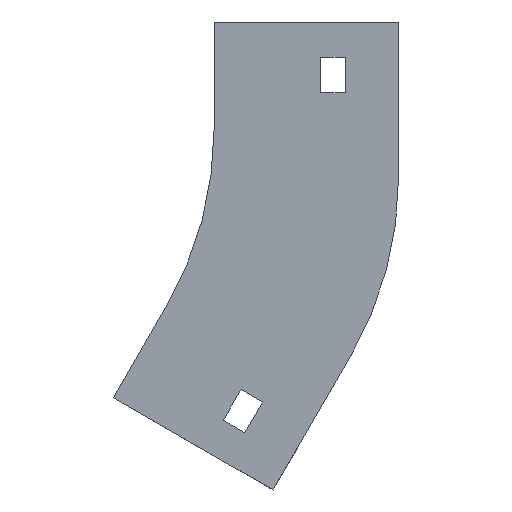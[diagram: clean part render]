
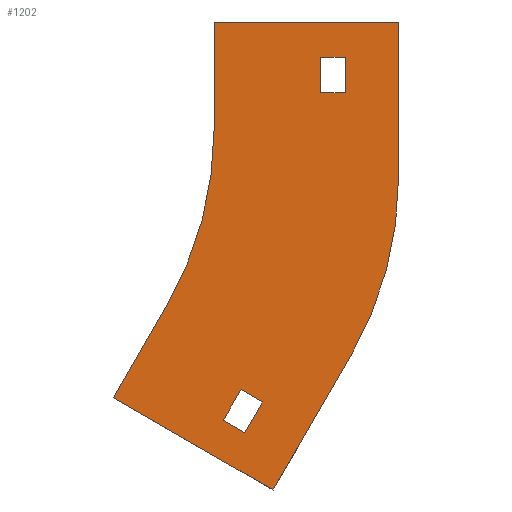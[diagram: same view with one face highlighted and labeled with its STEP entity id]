
A CAD part, left-side view. The second image highlights one B-rep face of the part: STEP entity #1202.
In plain terms, the highlighted planar face has unit normal (-1, 0, 0).
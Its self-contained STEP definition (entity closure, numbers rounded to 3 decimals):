
#4 = ORIENTED_EDGE ( 'NONE', *, *, #447, .F. ) ;
#15 = EDGE_CURVE ( 'NONE', #736, #576, #1129, .T. ) ;
#40 = DIRECTION ( 'NONE',  ( 0., 0., -1. ) ) ;
#59 = CARTESIAN_POINT ( 'NONE',  ( -27., 100., -30. ) ) ;
#103 = DIRECTION ( 'NONE',  ( 0., 0.5, -0.866 ) ) ;
#104 = CARTESIAN_POINT ( 'NONE',  ( -27., -30., -10. ) ) ;
#107 = ORIENTED_EDGE ( 'NONE', *, *, #848, .T. ) ;
#109 = CARTESIAN_POINT ( 'NONE',  ( -27., 0., -30. ) ) ;
#114 = DIRECTION ( 'NONE',  ( 0., 0.866, 0.5 ) ) ;
#119 = CARTESIAN_POINT ( 'NONE',  ( -27., -7.583, -103.66 ) ) ;
#120 = VECTOR ( 'NONE', #819, 1000. ) ;
#121 = VECTOR ( 'NONE', #1403, 1000. ) ;
#125 = VERTEX_POINT ( 'NONE', #823 ) ;
#142 = LINE ( 'NONE', #594, #1214 ) ;
#149 = CARTESIAN_POINT ( 'NONE',  ( -27., -37., -10. ) ) ;
#153 = DIRECTION ( 'NONE',  ( 0., 0., -1. ) ) ;
#166 = DIRECTION ( 'NONE',  ( 1., 0., 0. ) ) ;
#180 = DIRECTION ( 'NONE',  ( 0., -0.5, 0.866 ) ) ;
#185 = DIRECTION ( 'NONE',  ( 0., 0., -1. ) ) ;
#187 = CARTESIAN_POINT ( 'NONE',  ( -27., -37., -20. ) ) ;
#188 = DIRECTION ( 'NONE',  ( 0., 0., 1. ) ) ;
#191 = LINE ( 'NONE', #1156, #607 ) ;
#202 = DIRECTION ( 'NONE',  ( 0., -1., 0. ) ) ;
#213 = VECTOR ( 'NONE', #185, 1000. ) ;
#215 = CARTESIAN_POINT ( 'NONE',  ( -27., 48., -43.933 ) ) ;
#221 = CARTESIAN_POINT ( 'NONE',  ( -27., 0., 0. ) ) ;
#227 = EDGE_CURVE ( 'NONE', #406, #352, #1203, .T. ) ;
#228 = ORIENTED_EDGE ( 'NONE', *, *, #700, .F. ) ;
#232 = AXIS2_PLACEMENT_3D ( 'NONE', #215, #969, #1077 ) ;
#234 = VECTOR ( 'NONE', #103, 1000. ) ;
#238 = ORIENTED_EDGE ( 'NONE', *, *, #511, .T. ) ;
#255 = DIRECTION ( 'NONE',  ( -1., 0., 0. ) ) ;
#265 = VERTEX_POINT ( 'NONE', #109 ) ;
#281 = LINE ( 'NONE', #621, #635 ) ;
#286 = CIRCLE ( 'NONE', #695, 100. ) ;
#310 = VERTEX_POINT ( 'NONE', #467 ) ;
#317 = EDGE_CURVE ( 'NONE', #673, #265, #286, .T. ) ;
#324 = VERTEX_POINT ( 'NONE', #363 ) ;
#352 = VERTEX_POINT ( 'NONE', #945 ) ;
#363 = CARTESIAN_POINT ( 'NONE',  ( -27., -52., -43.933 ) ) ;
#387 = ORIENTED_EDGE ( 'NONE', *, *, #589, .F. ) ;
#393 = EDGE_CURVE ( 'NONE', #265, #1379, #1164, .T. ) ;
#401 = VERTEX_POINT ( 'NONE', #618 ) ;
#406 = VERTEX_POINT ( 'NONE', #1176 ) ;
#427 = VECTOR ( 'NONE', #1184, 1000. ) ;
#447 = EDGE_CURVE ( 'NONE', #1189, #125, #281, .T. ) ;
#465 = EDGE_CURVE ( 'NONE', #352, #673, #191, .T. ) ;
#467 = CARTESIAN_POINT ( 'NONE',  ( -27., -13.645, -107.16 ) ) ;
#476 = DIRECTION ( 'NONE',  ( 0., 0., -1. ) ) ;
#478 = FACE_BOUND ( 'NONE', #1086, .T. ) ;
#507 = VERTEX_POINT ( 'NONE', #640 ) ;
#509 = CARTESIAN_POINT ( 'NONE',  ( -27., 0., 0. ) ) ;
#511 = EDGE_CURVE ( 'NONE', #576, #401, #1048, .T. ) ;
#513 = DIRECTION ( 'NONE',  ( 0., -0.866, -0.5 ) ) ;
#516 = ORIENTED_EDGE ( 'NONE', *, *, #393, .F. ) ;
#550 = CARTESIAN_POINT ( 'NONE',  ( -27., 13.397, -80. ) ) ;
#552 = EDGE_LOOP ( 'NONE', ( #4, #1234, #820, #778 ) ) ;
#576 = VERTEX_POINT ( 'NONE', #187 ) ;
#580 = VECTOR ( 'NONE', #188, 1000. ) ;
#581 = PLANE ( 'NONE',  #681 ) ;
#589 = EDGE_CURVE ( 'NONE', #324, #904, #1159, .T. ) ;
#594 = CARTESIAN_POINT ( 'NONE',  ( -27., -16.636, -131.981 ) ) ;
#595 = CARTESIAN_POINT ( 'NONE',  ( -27., -30., -10. ) ) ;
#596 = FACE_BOUND ( 'NONE', #552, .T. ) ;
#605 = ORIENTED_EDGE ( 'NONE', *, *, #1258, .F. ) ;
#607 = VECTOR ( 'NONE', #180, 1000. ) ;
#614 = LINE ( 'NONE', #1187, #1193 ) ;
#618 = CARTESIAN_POINT ( 'NONE',  ( -27., -30., -20. ) ) ;
#621 = CARTESIAN_POINT ( 'NONE',  ( -27., -2.583, -112.321 ) ) ;
#635 = VECTOR ( 'NONE', #513, 1000. ) ;
#640 = CARTESIAN_POINT ( 'NONE',  ( -27., -52., 0. ) ) ;
#661 = VECTOR ( 'NONE', #1211, 1000. ) ;
#672 = EDGE_CURVE ( 'NONE', #310, #1238, #1312, .T. ) ;
#673 = VERTEX_POINT ( 'NONE', #550 ) ;
#681 = AXIS2_PLACEMENT_3D ( 'NONE', #59, #166, #40 ) ;
#695 = AXIS2_PLACEMENT_3D ( 'NONE', #903, #255, #153 ) ;
#700 = EDGE_CURVE ( 'NONE', #904, #406, #142, .T. ) ;
#736 = VERTEX_POINT ( 'NONE', #1241 ) ;
#742 = LINE ( 'NONE', #104, #120 ) ;
#757 = EDGE_LOOP ( 'NONE', ( #1081, #516, #1344, #1254, #1343, #228, #387, #605 ) ) ;
#778 = ORIENTED_EDGE ( 'NONE', *, *, #1147, .F. ) ;
#790 = VECTOR ( 'NONE', #1151, 1000. ) ;
#791 = DIRECTION ( 'NONE',  ( 0., 0.5, -0.866 ) ) ;
#819 = DIRECTION ( 'NONE',  ( 0., 0., 1. ) ) ;
#820 = ORIENTED_EDGE ( 'NONE', *, *, #672, .F. ) ;
#821 = EDGE_CURVE ( 'NONE', #1379, #507, #851, .T. ) ;
#823 = CARTESIAN_POINT ( 'NONE',  ( -27., -8.645, -115.821 ) ) ;
#848 = EDGE_CURVE ( 'NONE', #401, #1044, #742, .T. ) ;
#851 = LINE ( 'NONE', #1272, #790 ) ;
#856 = CARTESIAN_POINT ( 'NONE',  ( -27., -30., -20. ) ) ;
#859 = ORIENTED_EDGE ( 'NONE', *, *, #15, .T. ) ;
#903 = CARTESIAN_POINT ( 'NONE',  ( -27., 100., -30. ) ) ;
#904 = VERTEX_POINT ( 'NONE', #1303 ) ;
#945 = CARTESIAN_POINT ( 'NONE',  ( -27., 28.397, -105.981 ) ) ;
#966 = CARTESIAN_POINT ( 'NONE',  ( -27., -8.645, -115.821 ) ) ;
#969 = DIRECTION ( 'NONE',  ( 1., 0., 0. ) ) ;
#1044 = VERTEX_POINT ( 'NONE', #595 ) ;
#1045 = FACE_OUTER_BOUND ( 'NONE', #757, .T. ) ;
#1048 = LINE ( 'NONE', #856, #427 ) ;
#1077 = DIRECTION ( 'NONE',  ( 0., 0., 1. ) ) ;
#1081 = ORIENTED_EDGE ( 'NONE', *, *, #821, .F. ) ;
#1086 = EDGE_LOOP ( 'NONE', ( #107, #1146, #859, #238 ) ) ;
#1092 = CARTESIAN_POINT ( 'NONE',  ( -27., -2.583, -112.321 ) ) ;
#1096 = CARTESIAN_POINT ( 'NONE',  ( -27., 28.397, -105.981 ) ) ;
#1098 = VECTOR ( 'NONE', #476, 1000. ) ;
#1129 = LINE ( 'NONE', #149, #1098 ) ;
#1146 = ORIENTED_EDGE ( 'NONE', *, *, #1370, .T. ) ;
#1147 = EDGE_CURVE ( 'NONE', #125, #310, #1179, .T. ) ;
#1151 = DIRECTION ( 'NONE',  ( 0., -1., 0. ) ) ;
#1156 = CARTESIAN_POINT ( 'NONE',  ( -27., 13.397, -80. ) ) ;
#1159 = CIRCLE ( 'NONE', #232, 100. ) ;
#1164 = LINE ( 'NONE', #509, #580 ) ;
#1176 = CARTESIAN_POINT ( 'NONE',  ( -27., -16.636, -131.981 ) ) ;
#1179 = LINE ( 'NONE', #966, #121 ) ;
#1184 = DIRECTION ( 'NONE',  ( 0., 1., 0. ) ) ;
#1187 = CARTESIAN_POINT ( 'NONE',  ( -27., -30., -10. ) ) ;
#1189 = VERTEX_POINT ( 'NONE', #1276 ) ;
#1193 = VECTOR ( 'NONE', #202, 1000. ) ;
#1202 = ADVANCED_FACE ( 'NONE', ( #1045, #478, #596 ), #581, .F. ) ;
#1203 = LINE ( 'NONE', #1096, #1228 ) ;
#1211 = DIRECTION ( 'NONE',  ( 0., 0.866, 0.5 ) ) ;
#1214 = VECTOR ( 'NONE', #791, 1000. ) ;
#1228 = VECTOR ( 'NONE', #114, 1000. ) ;
#1234 = ORIENTED_EDGE ( 'NONE', *, *, #1380, .F. ) ;
#1238 = VERTEX_POINT ( 'NONE', #1264 ) ;
#1241 = CARTESIAN_POINT ( 'NONE',  ( -27., -37., -10. ) ) ;
#1247 = LINE ( 'NONE', #1377, #213 ) ;
#1254 = ORIENTED_EDGE ( 'NONE', *, *, #465, .F. ) ;
#1258 = EDGE_CURVE ( 'NONE', #507, #324, #1247, .T. ) ;
#1264 = CARTESIAN_POINT ( 'NONE',  ( -27., -7.583, -103.66 ) ) ;
#1272 = CARTESIAN_POINT ( 'NONE',  ( -27., -52., 0. ) ) ;
#1276 = CARTESIAN_POINT ( 'NONE',  ( -27., -2.583, -112.321 ) ) ;
#1303 = CARTESIAN_POINT ( 'NONE',  ( -27., -38.603, -93.933 ) ) ;
#1309 = LINE ( 'NONE', #1092, #234 ) ;
#1312 = LINE ( 'NONE', #119, #661 ) ;
#1343 = ORIENTED_EDGE ( 'NONE', *, *, #227, .F. ) ;
#1344 = ORIENTED_EDGE ( 'NONE', *, *, #317, .F. ) ;
#1370 = EDGE_CURVE ( 'NONE', #1044, #736, #614, .T. ) ;
#1377 = CARTESIAN_POINT ( 'NONE',  ( -27., -52., -43.933 ) ) ;
#1379 = VERTEX_POINT ( 'NONE', #221 ) ;
#1380 = EDGE_CURVE ( 'NONE', #1238, #1189, #1309, .T. ) ;
#1403 = DIRECTION ( 'NONE',  ( 0., -0.5, 0.866 ) ) ;
